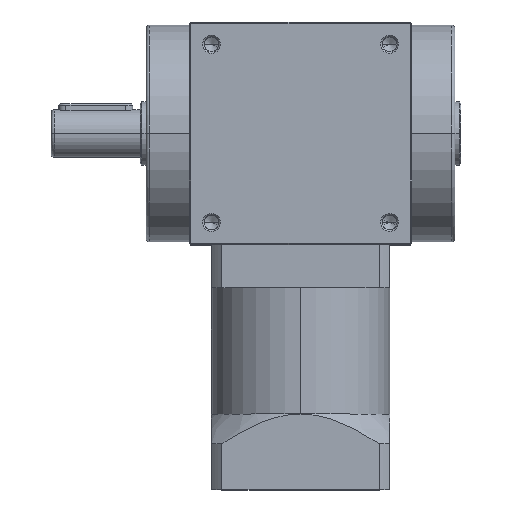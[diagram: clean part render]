
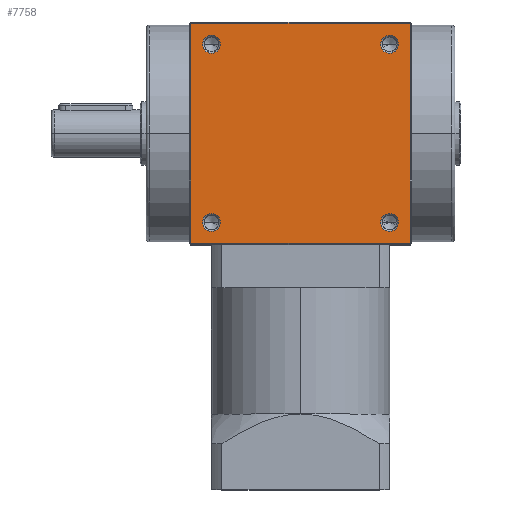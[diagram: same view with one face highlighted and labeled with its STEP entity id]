
A CAD part, top view. The second image highlights one B-rep face of the part: STEP entity #7758.
In plain terms, the highlighted planar face has unit normal (0, 0, 1).
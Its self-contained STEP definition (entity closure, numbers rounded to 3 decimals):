
#66 = AXIS2_PLACEMENT_3D ( 'NONE', #4026, #2669, #3980 ) ;
#78 = CARTESIAN_POINT ( 'NONE',  ( -30., -30., 37.5 ) ) ;
#133 = ORIENTED_EDGE ( 'NONE', *, *, #6514, .T. ) ;
#140 = ORIENTED_EDGE ( 'NONE', *, *, #1456, .T. ) ;
#284 = DIRECTION ( 'NONE',  ( 0., 0., -1. ) ) ;
#345 = VERTEX_POINT ( 'NONE', #998 ) ;
#647 = CARTESIAN_POINT ( 'NONE',  ( 33., 30., 37.5 ) ) ;
#697 = VERTEX_POINT ( 'NONE', #905 ) ;
#798 = CIRCLE ( 'NONE', #2111, 3. ) ;
#904 = ORIENTED_EDGE ( 'NONE', *, *, #9227, .T. ) ;
#905 = CARTESIAN_POINT ( 'NONE',  ( 37., 37., 37.5 ) ) ;
#965 = EDGE_CURVE ( 'NONE', #2814, #5097, #4018, .T. ) ;
#998 = CARTESIAN_POINT ( 'NONE',  ( 27., -30., 37.5 ) ) ;
#1171 = CARTESIAN_POINT ( 'NONE',  ( -33., -30., 37.5 ) ) ;
#1418 = FACE_OUTER_BOUND ( 'NONE', #7566, .T. ) ;
#1456 = EDGE_CURVE ( 'NONE', #4011, #1694, #3027, .T. ) ;
#1457 = DIRECTION ( 'NONE',  ( -1., 0., 0. ) ) ;
#1694 = VERTEX_POINT ( 'NONE', #647 ) ;
#1873 = EDGE_LOOP ( 'NONE', ( #3097, #5682 ) ) ;
#1927 = DIRECTION ( 'NONE',  ( -1., 0., 0. ) ) ;
#1943 = DIRECTION ( 'NONE',  ( -1., 0., 0. ) ) ;
#1964 = DIRECTION ( 'NONE',  ( -1., 0., 0. ) ) ;
#2109 = VECTOR ( 'NONE', #2233, 1000. ) ;
#2111 = AXIS2_PLACEMENT_3D ( 'NONE', #78, #6445, #2267 ) ;
#2139 = VECTOR ( 'NONE', #5207, 1000. ) ;
#2233 = DIRECTION ( 'NONE',  ( 0., 1., 0. ) ) ;
#2267 = DIRECTION ( 'NONE',  ( -1., 0., 0. ) ) ;
#2336 = AXIS2_PLACEMENT_3D ( 'NONE', #4849, #6180, #1943 ) ;
#2426 = EDGE_CURVE ( 'NONE', #3500, #345, #6409, .T. ) ;
#2466 = CARTESIAN_POINT ( 'NONE',  ( -30., 30., 37.5 ) ) ;
#2669 = DIRECTION ( 'NONE',  ( 0., 0., -1. ) ) ;
#2771 = EDGE_CURVE ( 'NONE', #5097, #2814, #4841, .T. ) ;
#2814 = VERTEX_POINT ( 'NONE', #5472 ) ;
#2938 = VERTEX_POINT ( 'NONE', #6367 ) ;
#2977 = VERTEX_POINT ( 'NONE', #6958 ) ;
#3027 = CIRCLE ( 'NONE', #4319, 3. ) ;
#3097 = ORIENTED_EDGE ( 'NONE', *, *, #965, .T. ) ;
#3409 = CARTESIAN_POINT ( 'NONE',  ( 37., -37., 37.5 ) ) ;
#3500 = VERTEX_POINT ( 'NONE', #7619 ) ;
#3584 = DIRECTION ( 'NONE',  ( 0., 0., -1. ) ) ;
#3678 = CARTESIAN_POINT ( 'NONE',  ( 0., 37., 37.5 ) ) ;
#3685 = EDGE_CURVE ( 'NONE', #697, #2938, #8042, .T. ) ;
#3843 = ORIENTED_EDGE ( 'NONE', *, *, #6378, .T. ) ;
#3980 = DIRECTION ( 'NONE',  ( -1., 0., 0. ) ) ;
#3993 = CARTESIAN_POINT ( 'NONE',  ( 30., 30., 37.5 ) ) ;
#4011 = VERTEX_POINT ( 'NONE', #8935 ) ;
#4018 = CIRCLE ( 'NONE', #66, 3. ) ;
#4026 = CARTESIAN_POINT ( 'NONE',  ( -30., 30., 37.5 ) ) ;
#4054 = VERTEX_POINT ( 'NONE', #3409 ) ;
#4153 = ORIENTED_EDGE ( 'NONE', *, *, #2426, .T. ) ;
#4192 = EDGE_LOOP ( 'NONE', ( #4153, #6105 ) ) ;
#4195 = LINE ( 'NONE', #6458, #2109 ) ;
#4199 = EDGE_CURVE ( 'NONE', #1694, #4011, #7951, .T. ) ;
#4241 = DIRECTION ( 'NONE',  ( 0., 0., -1. ) ) ;
#4302 = FACE_BOUND ( 'NONE', #1873, .T. ) ;
#4319 = AXIS2_PLACEMENT_3D ( 'NONE', #3993, #7450, #5384 ) ;
#4481 = VECTOR ( 'NONE', #7884, 1000. ) ;
#4550 = CARTESIAN_POINT ( 'NONE',  ( -37., 0., 37.5 ) ) ;
#4693 = AXIS2_PLACEMENT_3D ( 'NONE', #2466, #284, #7501 ) ;
#4738 = AXIS2_PLACEMENT_3D ( 'NONE', #8526, #4241, #1457 ) ;
#4741 = CARTESIAN_POINT ( 'NONE',  ( 0., 0., 37.5 ) ) ;
#4841 = CIRCLE ( 'NONE', #4693, 3. ) ;
#4849 = CARTESIAN_POINT ( 'NONE',  ( 30., -30., 37.5 ) ) ;
#5037 = EDGE_CURVE ( 'NONE', #2938, #8268, #8913, .T. ) ;
#5097 = VERTEX_POINT ( 'NONE', #6786 ) ;
#5207 = DIRECTION ( 'NONE',  ( 0., -1., 0. ) ) ;
#5237 = EDGE_LOOP ( 'NONE', ( #7407, #140 ) ) ;
#5247 = CARTESIAN_POINT ( 'NONE',  ( -37., -37., 37.5 ) ) ;
#5384 = DIRECTION ( 'NONE',  ( -1., 0., 0. ) ) ;
#5472 = CARTESIAN_POINT ( 'NONE',  ( -27., 30., 37.5 ) ) ;
#5477 = EDGE_LOOP ( 'NONE', ( #133, #904 ) ) ;
#5553 = CARTESIAN_POINT ( 'NONE',  ( 30., -30., 37.5 ) ) ;
#5663 = DIRECTION ( 'NONE',  ( 1., 0., 0. ) ) ;
#5682 = ORIENTED_EDGE ( 'NONE', *, *, #2771, .T. ) ;
#5707 = AXIS2_PLACEMENT_3D ( 'NONE', #5553, #6251, #1964 ) ;
#5860 = CIRCLE ( 'NONE', #4738, 3. ) ;
#5939 = CIRCLE ( 'NONE', #2336, 3. ) ;
#5962 = ORIENTED_EDGE ( 'NONE', *, *, #7271, .T. ) ;
#6105 = ORIENTED_EDGE ( 'NONE', *, *, #8897, .T. ) ;
#6114 = VERTEX_POINT ( 'NONE', #1171 ) ;
#6180 = DIRECTION ( 'NONE',  ( 0., 0., -1. ) ) ;
#6225 = AXIS2_PLACEMENT_3D ( 'NONE', #4741, #6886, #1927 ) ;
#6251 = DIRECTION ( 'NONE',  ( 0., 0., -1. ) ) ;
#6254 = AXIS2_PLACEMENT_3D ( 'NONE', #7897, #3584, #8579 ) ;
#6306 = LINE ( 'NONE', #9235, #6963 ) ;
#6367 = CARTESIAN_POINT ( 'NONE',  ( -37., 37., 37.5 ) ) ;
#6378 = EDGE_CURVE ( 'NONE', #4054, #697, #4195, .T. ) ;
#6409 = CIRCLE ( 'NONE', #5707, 3. ) ;
#6445 = DIRECTION ( 'NONE',  ( 0., 0., -1. ) ) ;
#6458 = CARTESIAN_POINT ( 'NONE',  ( 37., 0., 37.5 ) ) ;
#6490 = ORIENTED_EDGE ( 'NONE', *, *, #5037, .T. ) ;
#6507 = FACE_BOUND ( 'NONE', #5237, .T. ) ;
#6514 = EDGE_CURVE ( 'NONE', #2977, #6114, #5860, .T. ) ;
#6786 = CARTESIAN_POINT ( 'NONE',  ( -33., 30., 37.5 ) ) ;
#6830 = FACE_BOUND ( 'NONE', #4192, .T. ) ;
#6886 = DIRECTION ( 'NONE',  ( 0., 0., -1. ) ) ;
#6958 = CARTESIAN_POINT ( 'NONE',  ( -27., -30., 37.5 ) ) ;
#6963 = VECTOR ( 'NONE', #5663, 1000. ) ;
#6969 = ORIENTED_EDGE ( 'NONE', *, *, #3685, .T. ) ;
#7271 = EDGE_CURVE ( 'NONE', #8268, #4054, #6306, .T. ) ;
#7407 = ORIENTED_EDGE ( 'NONE', *, *, #4199, .T. ) ;
#7450 = DIRECTION ( 'NONE',  ( 0., 0., -1. ) ) ;
#7501 = DIRECTION ( 'NONE',  ( -1., 0., 0. ) ) ;
#7566 = EDGE_LOOP ( 'NONE', ( #6490, #5962, #3843, #6969 ) ) ;
#7619 = CARTESIAN_POINT ( 'NONE',  ( 33., -30., 37.5 ) ) ;
#7668 = PLANE ( 'NONE',  #6225 ) ;
#7758 = ADVANCED_FACE ( 'NONE', ( #6830, #9222, #6507, #4302, #1418 ), #7668, .F. ) ;
#7884 = DIRECTION ( 'NONE',  ( -1., 0., 0. ) ) ;
#7897 = CARTESIAN_POINT ( 'NONE',  ( 30., 30., 37.5 ) ) ;
#7951 = CIRCLE ( 'NONE', #6254, 3. ) ;
#8042 = LINE ( 'NONE', #3678, #4481 ) ;
#8268 = VERTEX_POINT ( 'NONE', #5247 ) ;
#8526 = CARTESIAN_POINT ( 'NONE',  ( -30., -30., 37.5 ) ) ;
#8579 = DIRECTION ( 'NONE',  ( -1., 0., 0. ) ) ;
#8897 = EDGE_CURVE ( 'NONE', #345, #3500, #5939, .T. ) ;
#8913 = LINE ( 'NONE', #4550, #2139 ) ;
#8935 = CARTESIAN_POINT ( 'NONE',  ( 27., 30., 37.5 ) ) ;
#9222 = FACE_BOUND ( 'NONE', #5477, .T. ) ;
#9227 = EDGE_CURVE ( 'NONE', #6114, #2977, #798, .T. ) ;
#9235 = CARTESIAN_POINT ( 'NONE',  ( 0., -37., 37.5 ) ) ;
